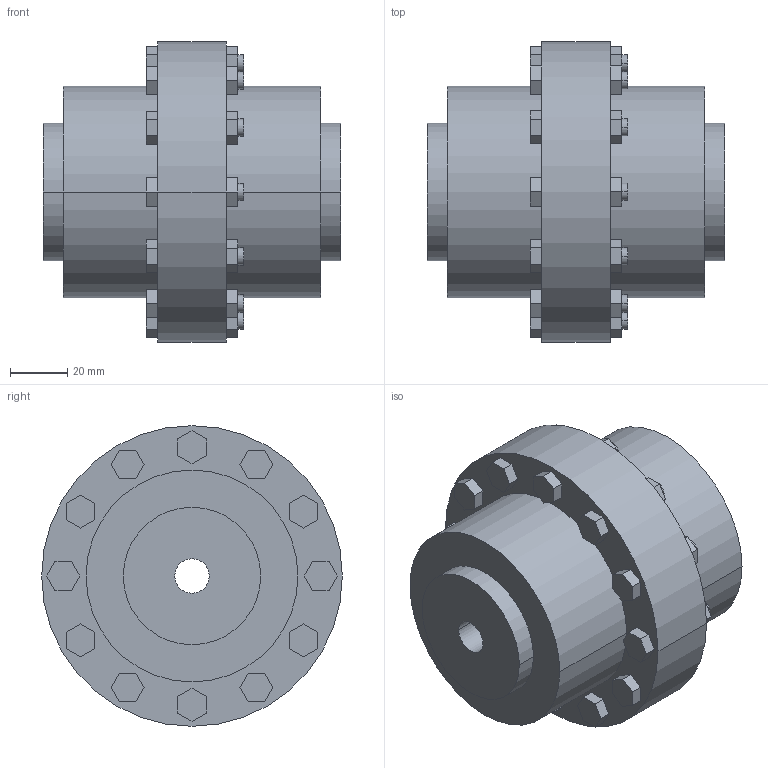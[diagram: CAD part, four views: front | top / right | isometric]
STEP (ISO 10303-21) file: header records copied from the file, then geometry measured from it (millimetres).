
FILE_DESCRIPTION((''),'2;1');
FILE_NAME('A18996300-0_ASM','2018-10-02T',('AB_Roschiwal'),('RENK AG'),'PRO/ENGINEER BY PARAMETRIC TECHNOLOGY CORPORATION, 2015440','PRO/ENGINEER BY PARAMETRIC TECHNOLOGY CORPORATION, 2015440','');
FILE_SCHEMA(('CONFIG_CONTROL_DESIGN'));
Length unit declared in the file: millimetre
Products named in the file (3): LBK32_GEHAEUSE; LBK32_NABE; A18996300-0_ASM
Assembly tree (3 placements, depth 2):
  A18996300-0_ASM
    LBK32_GEHAEUSE
    LBK32_NABE  x2
Bounding box: 104 x 105 x 105 mm (x, y, z)
Volume: 464194.7 mm3; surface area: 97016.9 mm2
Topology: 3 solids, 3 shells, 246 faces, 588 edges, 392 vertices
Faces by surface type: plane 194, cylinder 52
Entity records: 6860 total; most frequent: CARTESIAN_POINT 1180, DIRECTION 1132, ORIENTED_EDGE 1128, EDGE_CURVE 564, VECTOR 476, LINE 476, VERTEX_POINT 376, AXIS2_PLACEMENT_3D 328
